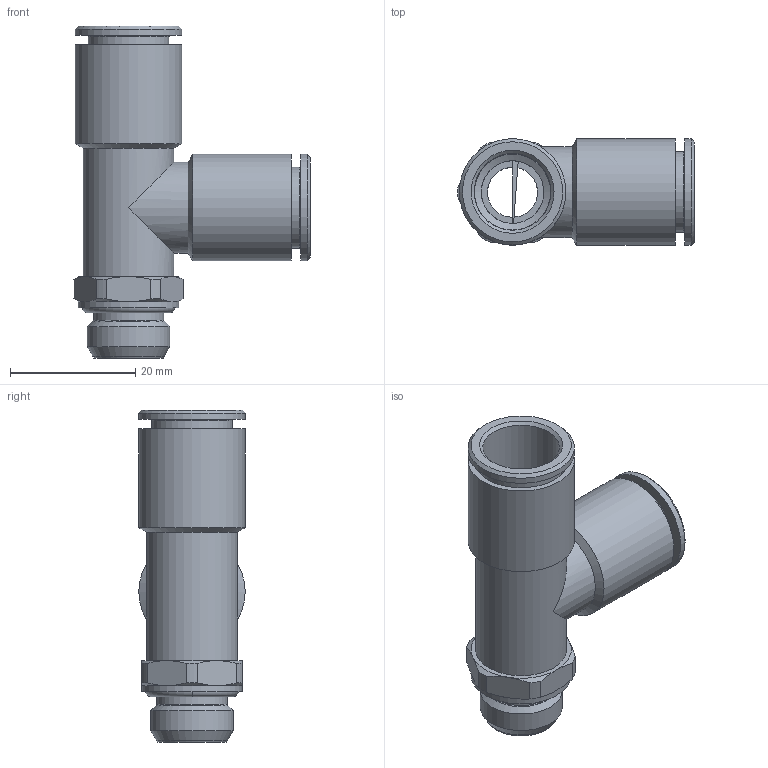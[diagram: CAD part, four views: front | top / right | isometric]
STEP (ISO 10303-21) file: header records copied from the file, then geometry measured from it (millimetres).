
FILE_DESCRIPTION(('Bauteilbeschreibung','HiCAD-Model','HiCAD-STEP-TRANSLATION','Bauteilbeschreibung'),'2;1');
FILE_NAME('B:/ABGLEICH/ZEICHNUNGEN/STEP FÜR INTERNET/STEP/IPSO 021/202110_IPSO_021_12_1-4.STP','2012-02-27T14:36:28+00:00',('Konstrukteur'),('Konstrukteur Firma GmbH'),' HiCAD neXt 2008, Step 3.1.1401.2J ','HiCAD neXt 2008','confidential');
FILE_SCHEMA(('AUTOMOTIVE_DESIGN { 1 2 10303 214 0 1 1 1 }'));
Length unit declared in the file: millimetre
Products named in the file (8): A02110_IPSO_021_12_1_4; OR 11_11X1_78; A14627_GEW_1_4_1_4; A146270GEW01040104; G 1_4; DR12_5; DR1205; R202110
Assembly tree (7 placements, depth 3):
  A02110_IPSO_021_12_1_4
    OR 11_11X1_78
    A14627_GEW_1_4_1_4
    A146270GEW01040104
      G 1_4
    DR12_5
    DR1205
    R202110
Bounding box: 37.74 x 17 x 53 mm (x, y, z)
Volume: 6463 mm3; surface area: 10232.3 mm2
Topology: 6 solids, 6 shells, 113 faces, 240 edges, 142 vertices
Faces by surface type: cone 42, cylinder 37, plane 24, torus 10
Full cylindrical faces by diameter (mm): 8 x1, 10 x2, 11.2 x1, 11.445 x2, 12.15 x2, 12.2 x2, 12.25 x2, 12.9 x2, 13.157 x1, 13.5 x2, 14 x2, 14.5 x2, 14.7 x2, 15.2 x2, 16 x1, 17 x4
Entity records: 4073 total; most frequent: CARTESIAN_POINT 1005, DIRECTION 504, ORIENTED_EDGE 324, AXIS2_PLACEMENT_3D 245, EDGE_LOOP 196, EDGE_CURVE 162, COLOUR_RGB 154, PRESENTATION_STYLE_ASSIGNMENT 154
